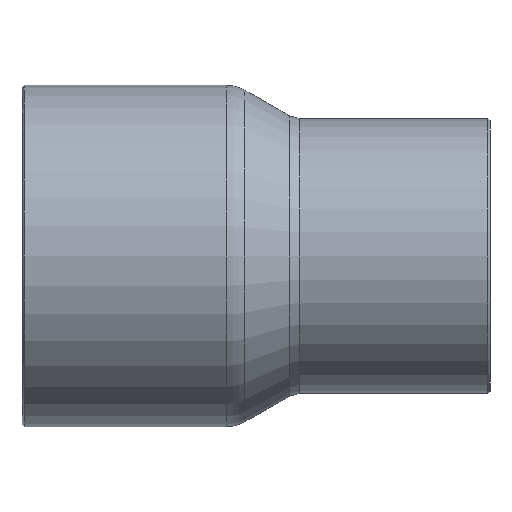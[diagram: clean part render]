
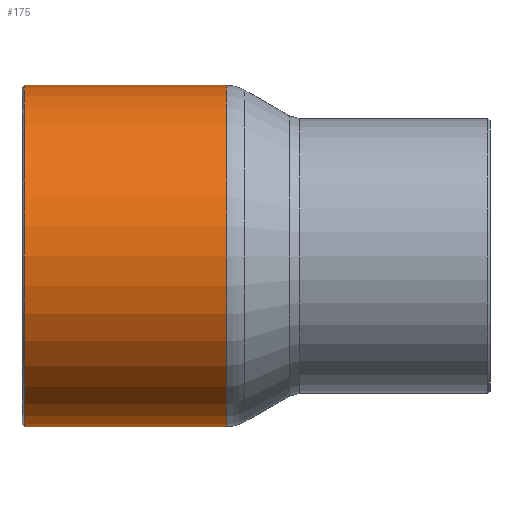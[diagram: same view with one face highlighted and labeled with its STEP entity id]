
A CAD part, front view. The second image highlights one B-rep face of the part: STEP entity #175.
In plain terms, the highlighted cylindrical face has radius 16.262 mm (diameter 32.525 mm), a full revolution.
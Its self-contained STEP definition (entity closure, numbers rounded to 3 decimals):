
#144=CARTESIAN_POINT('',(-28.3,16.263,0.));
#145=VERTEX_POINT('',#144);
#146=CARTESIAN_POINT('',(-28.3,0.0,0.0));
#147=DIRECTION('',(-1.0,0.0,0.0));
#148=DIRECTION('',(0.0,-1.0,0.0));
#149=AXIS2_PLACEMENT_3D('',#146,#147,#148);
#150=CIRCLE('',#149,16.263);
#151=EDGE_CURVE('',#145,#145,#150,.T.);
#156=CARTESIAN_POINT('',(-18.75,0.0,0.0));
#157=DIRECTION('',(1.0,0.0,0.0));
#158=DIRECTION('',(0.0,1.0,0.0));
#159=AXIS2_PLACEMENT_3D('',#156,#157,#158);
#160=CYLINDRICAL_SURFACE('',#159,16.263);
#161=CARTESIAN_POINT('',(-9.,16.263,0.0));
#162=VERTEX_POINT('',#161);
#163=CARTESIAN_POINT('',(-9.,0.0,0.0));
#164=DIRECTION('',(1.0,0.0,0.0));
#165=DIRECTION('',(0.0,1.0,0.0));
#166=AXIS2_PLACEMENT_3D('',#163,#164,#165);
#167=CIRCLE('',#166,16.263);
#168=EDGE_CURVE('',#162,#162,#167,.T.);
#169=ORIENTED_EDGE('',*,*,#168,.F.);
#170=EDGE_LOOP('',(#169));
#171=FACE_OUTER_BOUND('',#170,.T.);
#172=ORIENTED_EDGE('',*,*,#151,.F.);
#173=EDGE_LOOP('',(#172));
#174=FACE_BOUND('',#173,.T.);
#175=ADVANCED_FACE('',(#171,#174),#160,.T.);
